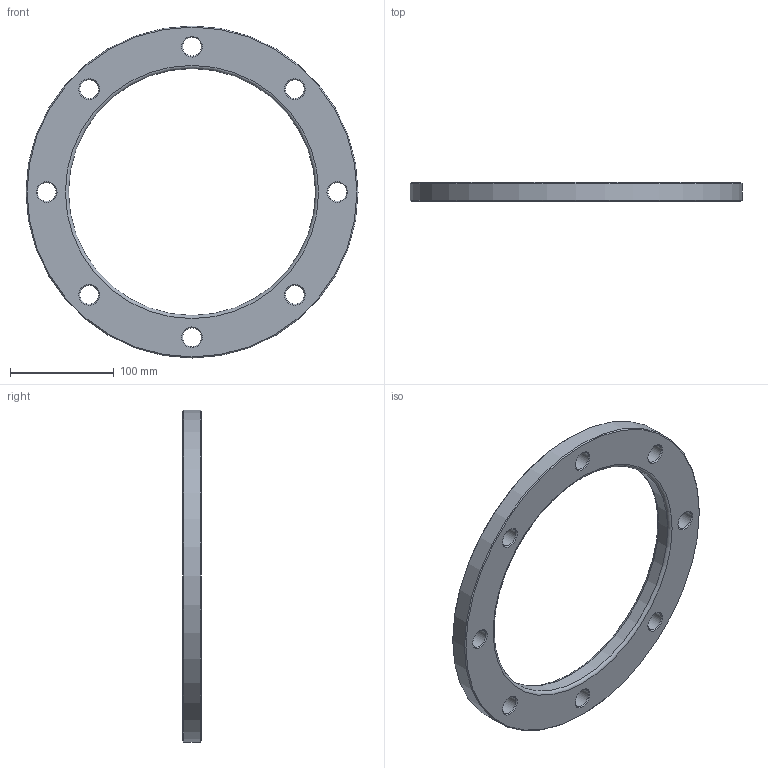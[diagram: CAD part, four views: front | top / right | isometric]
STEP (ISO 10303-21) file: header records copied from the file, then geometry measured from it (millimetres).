
FILE_DESCRIPTION(/* description */ ('Unknown'),/* implementation_level */ '2;1');
FILE_NAME(/* name */ 'FZ225A',/* time_stamp */ '2021-03-13T11:21:06+01:00',/* author */ ('Unknown'),/* organization */ ('Unknown'),/* preprocessor_version */ 'ST-DEVELOPER v16.7',/* originating_system */ 'Solid Edge',/* authorisation */ 'Unknown');
FILE_SCHEMA (('AUTOMOTIVE_DESIGN {1 0 10303 214 3 1 1}'));
Length unit declared in the file: millimetre
Products named in the file (1): FZ225A
Bounding box: 320 x 18 x 320 mm (x, y, z)
Volume: 605839.8 mm3; surface area: 103892 mm2
Topology: 1 solids, 1 shells, 32 faces, 94 edges, 64 vertices
Faces by surface type: cone 18, cylinder 10, plane 2, torus 2
Full cylindrical faces by diameter (mm): 18 x8, 238 x1, 320 x1
Entity records: 790 total; most frequent: DIRECTION 146, CARTESIAN_POINT 113, ORIENTED_EDGE 80, EDGE_LOOP 80, FACE_BOUND 80, AXIS2_PLACEMENT_3D 73, EDGE_CURVE 40, VERTEX_POINT 40
